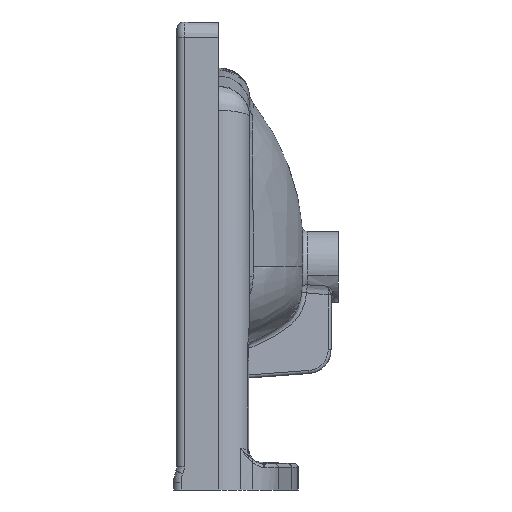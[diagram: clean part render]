
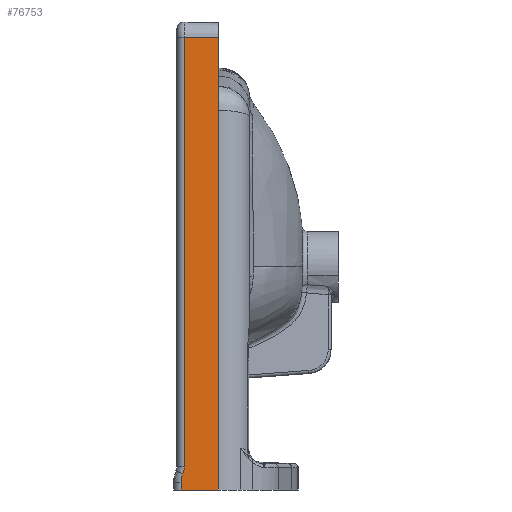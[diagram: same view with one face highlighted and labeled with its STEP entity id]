
A CAD part, left-side view. The second image highlights one B-rep face of the part: STEP entity #76753.
In plain terms, the highlighted planar face has unit normal (-1, -0.025, 0).
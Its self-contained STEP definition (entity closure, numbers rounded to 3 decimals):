
#883 = DIRECTION ( 'NONE',  ( 0.025, -1., 0. ) ) ;
#1745 = CARTESIAN_POINT ( 'NONE',  ( 0., 0., 435. ) ) ;
#4717 = DIRECTION ( 'NONE',  ( 0., 0., -1. ) ) ;
#5017 = VERTEX_POINT ( 'NONE', #78664 ) ;
#5225 = CARTESIAN_POINT ( 'NONE',  ( 0.104, -4.175, 9.95 ) ) ;
#7042 = CARTESIAN_POINT ( 'NONE',  ( 0.104, -4.175, 6.943 ) ) ;
#7531 = CARTESIAN_POINT ( 'NONE',  ( 0.999, -39.975, 0. ) ) ;
#9609 = VERTEX_POINT ( 'NONE', #55627 ) ;
#9741 = EDGE_CURVE ( 'NONE', #9609, #5017, #69486, .T. ) ;
#10480 = EDGE_LOOP ( 'NONE', ( #13148, #83624, #40251, #34388, #82337, #24982, #85657 ) ) ;
#10926 = EDGE_CURVE ( 'NONE', #75263, #49364, #50730, .T. ) ;
#13148 = ORIENTED_EDGE ( 'NONE', *, *, #23677, .F. ) ;
#22928 = DIRECTION ( 'NONE',  ( 0., 0., -1. ) ) ;
#22982 = CARTESIAN_POINT ( 'NONE',  ( 1., -40., 0. ) ) ;
#23491 = DIRECTION ( 'NONE',  ( 0., 0., -1. ) ) ;
#23677 = EDGE_CURVE ( 'NONE', #55630, #75263, #41653, .T. ) ;
#24769 = CARTESIAN_POINT ( 'NONE',  ( 0.147, -5.9, 15.682 ) ) ;
#24982 = ORIENTED_EDGE ( 'NONE', *, *, #52769, .F. ) ;
#30049 = LINE ( 'NONE', #50424, #72888 ) ;
#31727 = CARTESIAN_POINT ( 'NONE',  ( 0.179, -7.175, 22.141 ) ) ;
#32394 = CARTESIAN_POINT ( 'NONE',  ( 1., -40., 0. ) ) ;
#33709 = VECTOR ( 'NONE', #4717, 1000. ) ;
#34388 = ORIENTED_EDGE ( 'NONE', *, *, #77469, .T. ) ;
#36121 = DIRECTION ( 'NONE',  ( 0., 0., -1. ) ) ;
#40251 = ORIENTED_EDGE ( 'NONE', *, *, #9741, .T. ) ;
#41579 = VECTOR ( 'NONE', #23491, 1000. ) ;
#41653 = LINE ( 'NONE', #1745, #47316 ) ;
#43014 = CARTESIAN_POINT ( 'NONE',  ( 0.104, -4.175, 0. ) ) ;
#47316 = VECTOR ( 'NONE', #883, 1000. ) ;
#48114 = FACE_OUTER_BOUND ( 'NONE', #10480, .T. ) ;
#48964 = PLANE ( 'NONE',  #51113 ) ;
#49364 = VERTEX_POINT ( 'NONE', #32394 ) ;
#49972 = CARTESIAN_POINT ( 'NONE',  ( 0.147, -5.9, 15.682 ) ) ;
#50375 =( BOUNDED_CURVE ( )  B_SPLINE_CURVE ( 3, ( #24769, #83813, #5225, #57326 ),
 .UNSPECIFIED., .F., .F. ) 
 B_SPLINE_CURVE_WITH_KNOTS ( ( 4, 4 ),
 ( 2.752, 3.142 ),
 .UNSPECIFIED. ) 
 CURVE ( )  GEOMETRIC_REPRESENTATION_ITEM ( )  RATIONAL_B_SPLINE_CURVE ( ( 1., 0.987, 0.987, 1. ) ) 
 REPRESENTATION_ITEM ( '' )  );
#50424 = CARTESIAN_POINT ( 'NONE',  ( 0.179, -7.175, 0. ) ) ;
#50730 = LINE ( 'NONE', #22982, #33709 ) ;
#51113 = AXIS2_PLACEMENT_3D ( 'NONE', #62422, #61993, #22928 ) ;
#52769 = EDGE_CURVE ( 'NONE', #49364, #74901, #82165, .T. ) ;
#54272 = VERTEX_POINT ( 'NONE', #7042 ) ;
#55627 = CARTESIAN_POINT ( 'NONE',  ( 0.179, -7.175, 22.141 ) ) ;
#55630 = VERTEX_POINT ( 'NONE', #80512 ) ;
#56485 = CARTESIAN_POINT ( 'NONE',  ( 0.169, -6.745, 17.738 ) ) ;
#57326 = CARTESIAN_POINT ( 'NONE',  ( 0.104, -4.175, 6.943 ) ) ;
#58175 = LINE ( 'NONE', #43014, #41579 ) ;
#58263 = EDGE_CURVE ( 'NONE', #55630, #9609, #30049, .T. ) ;
#61455 = CARTESIAN_POINT ( 'NONE',  ( 1., -40., 435. ) ) ;
#61993 = DIRECTION ( 'NONE',  ( -1., -0.025, 0. ) ) ;
#62422 = CARTESIAN_POINT ( 'NONE',  ( 0., 0., 0. ) ) ;
#67963 = CARTESIAN_POINT ( 'NONE',  ( 0.104, -4.175, 0. ) ) ;
#69486 =( BOUNDED_CURVE ( )  B_SPLINE_CURVE ( 3, ( #31727, #83401, #56485, #49972 ),
 .UNSPECIFIED., .F., .F. ) 
 B_SPLINE_CURVE_WITH_KNOTS ( ( 4, 4 ),
 ( 0., 0.39 ),
 .UNSPECIFIED. ) 
 CURVE ( )  GEOMETRIC_REPRESENTATION_ITEM ( )  RATIONAL_B_SPLINE_CURVE ( ( 1., 0.987, 0.987, 1. ) ) 
 REPRESENTATION_ITEM ( '' )  );
#72888 = VECTOR ( 'NONE', #36121, 1000. ) ;
#73947 = DIRECTION ( 'NONE',  ( -0.025, 1., 0. ) ) ;
#74901 = VERTEX_POINT ( 'NONE', #67963 ) ;
#75263 = VERTEX_POINT ( 'NONE', #61455 ) ;
#76753 = ADVANCED_FACE ( 'NONE', ( #48114 ), #48964, .T. ) ;
#77462 = EDGE_CURVE ( 'NONE', #54272, #74901, #58175, .T. ) ;
#77469 = EDGE_CURVE ( 'NONE', #5017, #54272, #50375, .T. ) ;
#78664 = CARTESIAN_POINT ( 'NONE',  ( 0.147, -5.9, 15.682 ) ) ;
#80512 = CARTESIAN_POINT ( 'NONE',  ( 0.179, -7.175, 435. ) ) ;
#81066 = VECTOR ( 'NONE', #73947, 1000. ) ;
#82165 = LINE ( 'NONE', #7531, #81066 ) ;
#82337 = ORIENTED_EDGE ( 'NONE', *, *, #77462, .T. ) ;
#83401 = CARTESIAN_POINT ( 'NONE',  ( 0.179, -7.175, 19.919 ) ) ;
#83624 = ORIENTED_EDGE ( 'NONE', *, *, #58263, .T. ) ;
#83813 = CARTESIAN_POINT ( 'NONE',  ( 0.119, -4.757, 12.9 ) ) ;
#85657 = ORIENTED_EDGE ( 'NONE', *, *, #10926, .F. ) ;
